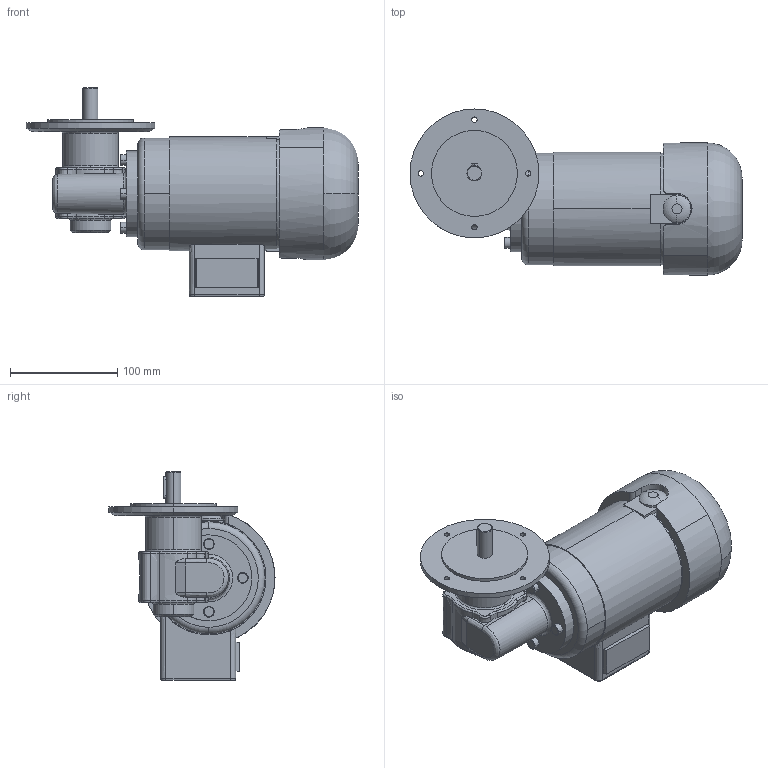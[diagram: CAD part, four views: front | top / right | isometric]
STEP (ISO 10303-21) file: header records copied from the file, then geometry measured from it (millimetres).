
FILE_DESCRIPTION(('OneSpaceDesigner STEP Export'),'2;1');
FILE_NAME('KGOG61-62_GF130-10_E.stp','2008-08-18T 9:20:51',(''),(''),'OneSpace Designer STEP processor (Jan. 2003) for AP214(CD)(Solid Model)','OneSpace Designer 12.01D 09-Jul-2004 (C) CoCreate Software GmbH','');
FILE_SCHEMA(('AUTOMOTIVE_DESIGN_CC2 {1 2 10303 214 -1 1 5 1}'));
Length unit declared in the file: millimetre
Products named in the file (2): KGOG61-62_GF130-10_E
Assembly tree (1 placements, depth 2):
  KGOG61-62_GF130-10_E
    KGOG61-62_GF130-10_E
Bounding box: 309 x 154.5 x 194.5 mm (x, y, z)
Volume: 2650147.7 mm3; surface area: 155891.6 mm2
Topology: 1 solids, 1 shells, 213 faces, 541 edges, 344 vertices
Faces by surface type: cylinder 56, plane 55, bspline 47, extrusion 29, torus 14, cone 12
Entity records: 18433 total; most frequent: CARTESIAN_POINT 14210, ORIENTED_EDGE 1082, EDGE_CURVE 541, DIRECTION 526, VERTEX_POINT 344, EDGE_LOOP 235, FACE_OUTER_BOUND 213, ADVANCED_FACE 213
